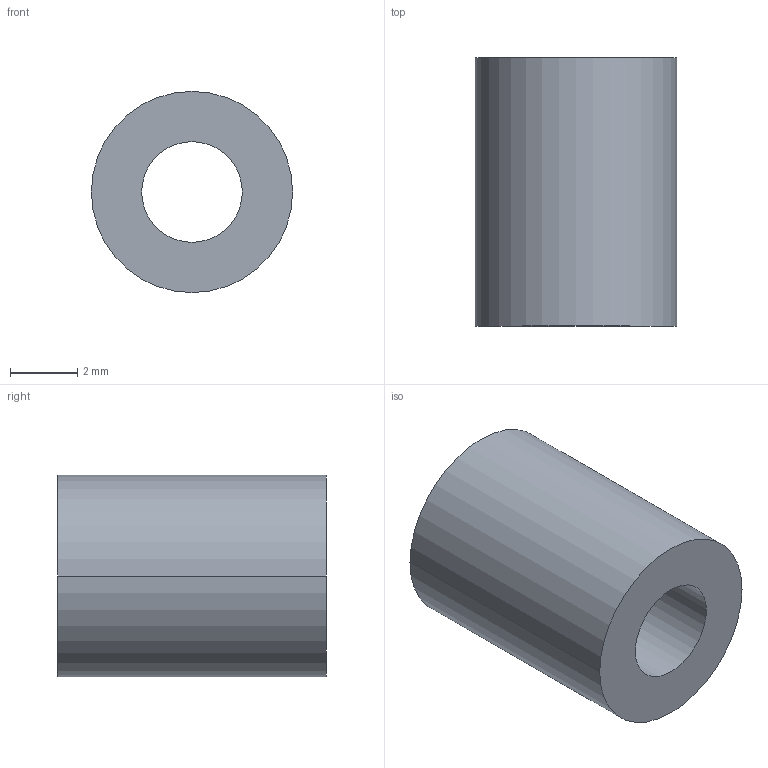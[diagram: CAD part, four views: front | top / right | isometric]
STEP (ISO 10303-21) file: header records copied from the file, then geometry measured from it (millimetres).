
FILE_DESCRIPTION (( 'STEP AP203' ), '1' );
FILE_NAME ('30800.WPP6B3.0.step', '2019-01-23T22:18:06', ( '' ), ( '' ), 'SwSTEP 2.0', 'SolidWorks 2017', '' );
FILE_SCHEMA (( 'CONFIG_CONTROL_DESIGN' ));
Length unit declared in the file: millimetre
Products named in the file (1): 30800.WPP6B3.0
Bounding box: 6 x 8 x 6 mm (x, y, z)
Volume: 167.3 mm3; surface area: 265 mm2
Topology: 1 solids, 1 shells, 8 faces, 16 edges, 10 vertices
Faces by surface type: cylinder 4, torus 2, plane 2
Entity records: 297 total; most frequent: DIRECTION 46, CARTESIAN_POINT 35, ORIENTED_EDGE 32, AXIS2_PLACEMENT_3D 21, EDGE_CURVE 16, CIRCLE 12, EDGE_LOOP 10, VERTEX_POINT 10
